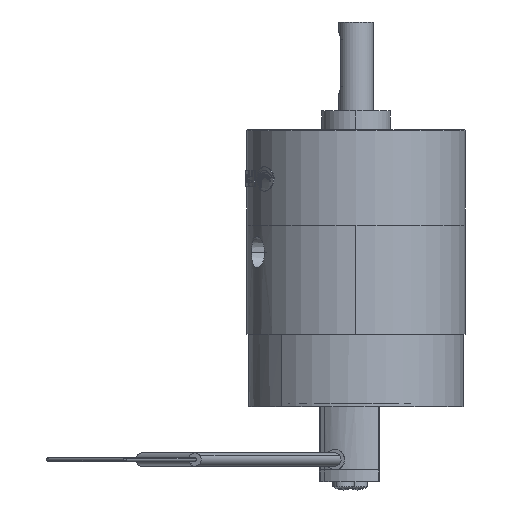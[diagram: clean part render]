
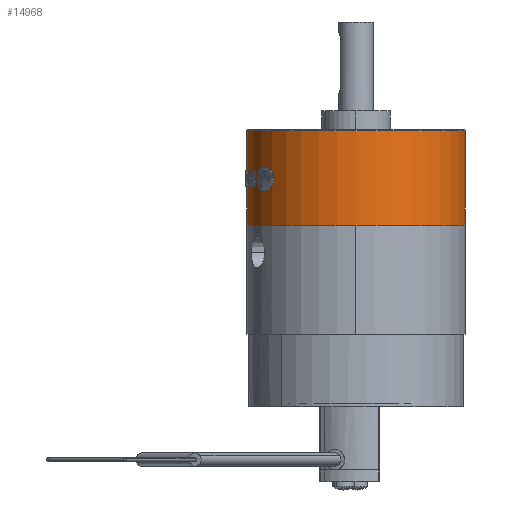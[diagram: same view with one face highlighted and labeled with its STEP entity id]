
A CAD part, left-side view. The second image highlights one B-rep face of the part: STEP entity #14968.
In plain terms, the highlighted cylindrical face has radius 32 mm (diameter 64 mm), a partial arc.
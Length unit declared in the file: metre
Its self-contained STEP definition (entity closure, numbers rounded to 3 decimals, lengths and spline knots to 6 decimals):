
#641 = AXIS2_PLACEMENT_3D ( 'NONE', #14360, #18692, #1943 ) ;
#737 = ORIENTED_EDGE ( 'NONE', *, *, #7960, .T. ) ;
#1194 = ORIENTED_EDGE ( 'NONE', *, *, #16166, .T. ) ;
#1354 = ORIENTED_EDGE ( 'NONE', *, *, #4740, .T. ) ;
#1943 = DIRECTION ( 'NONE',  ( 0., -1., 0. ) ) ;
#2461 = CARTESIAN_POINT ( 'NONE',  ( 0., 0.032, -0.0003 ) ) ;
#2712 = EDGE_CURVE ( 'NONE', #3213, #19456, #15177, .T. ) ;
#3177 = VERTEX_POINT ( 'NONE', #12465 ) ;
#3213 = VERTEX_POINT ( 'NONE', #15397 ) ;
#4740 = EDGE_CURVE ( 'NONE', #3177, #16006, #7688, .T. ) ;
#5065 = EDGE_LOOP ( 'NONE', ( #10957, #1354, #737, #16842, #1194 ) ) ;
#5886 = DIRECTION ( 'NONE',  ( 0., 0., -1. ) ) ;
#6675 = LINE ( 'NONE', #12292, #10347 ) ;
#7276 = AXIS2_PLACEMENT_3D ( 'NONE', #16809, #16845, #16869 ) ;
#7354 = VERTEX_POINT ( 'NONE', #2461 ) ;
#7614 = LINE ( 'NONE', #7795, #19127 ) ;
#7688 = CIRCLE ( 'NONE', #7276, 0.032 ) ;
#7795 = CARTESIAN_POINT ( 'NONE',  ( 0., 0.032, -0.028 ) ) ;
#7875 = DIRECTION ( 'NONE',  ( 0., 0., 1. ) ) ;
#7960 = EDGE_CURVE ( 'NONE', #16006, #3213, #6675, .T. ) ;
#9323 = CARTESIAN_POINT ( 'NONE',  ( -0.032, 0., -0.0003 ) ) ;
#9627 = CIRCLE ( 'NONE', #14015, 0.032 ) ;
#10347 = VECTOR ( 'NONE', #12236, 1. ) ;
#10957 = ORIENTED_EDGE ( 'NONE', *, *, #11095, .F. ) ;
#11095 = EDGE_CURVE ( 'NONE', #3177, #7354, #7614, .T. ) ;
#12236 = DIRECTION ( 'NONE',  ( 0., 0., 1. ) ) ;
#12292 = CARTESIAN_POINT ( 'NONE',  ( 0., -0.032, -0.028 ) ) ;
#12465 = CARTESIAN_POINT ( 'NONE',  ( 0., 0.032, -0.028 ) ) ;
#13154 = AXIS2_PLACEMENT_3D ( 'NONE', #14154, #14135, #14211 ) ;
#13465 = CARTESIAN_POINT ( 'NONE',  ( 0., -0.032, -0.028 ) ) ;
#14015 = AXIS2_PLACEMENT_3D ( 'NONE', #15182, #5886, #16630 ) ;
#14135 = DIRECTION ( 'NONE',  ( 0., 0., -1. ) ) ;
#14154 = CARTESIAN_POINT ( 'NONE',  ( 0., 0., -0.0003 ) ) ;
#14211 = DIRECTION ( 'NONE',  ( -1., 0., 0. ) ) ;
#14270 = CYLINDRICAL_SURFACE ( 'NONE', #641, 0.032 ) ;
#14360 = CARTESIAN_POINT ( 'NONE',  ( 0., 0., -0.028 ) ) ;
#14723 = FACE_OUTER_BOUND ( 'NONE', #5065, .T. ) ;
#14968 = ADVANCED_FACE ( 'NONE', ( #14723 ), #14270, .T. ) ;
#15177 = CIRCLE ( 'NONE', #13154, 0.032 ) ;
#15182 = CARTESIAN_POINT ( 'NONE',  ( 0., 0., -0.0003 ) ) ;
#15397 = CARTESIAN_POINT ( 'NONE',  ( 0., -0.032, -0.0003 ) ) ;
#16006 = VERTEX_POINT ( 'NONE', #13465 ) ;
#16166 = EDGE_CURVE ( 'NONE', #19456, #7354, #9627, .T. ) ;
#16630 = DIRECTION ( 'NONE',  ( -1., 0., 0. ) ) ;
#16809 = CARTESIAN_POINT ( 'NONE',  ( 0., 0., -0.028 ) ) ;
#16842 = ORIENTED_EDGE ( 'NONE', *, *, #2712, .T. ) ;
#16845 = DIRECTION ( 'NONE',  ( 0., 0., 1. ) ) ;
#16869 = DIRECTION ( 'NONE',  ( 0., -1., 0. ) ) ;
#18692 = DIRECTION ( 'NONE',  ( 0., 0., 1. ) ) ;
#19127 = VECTOR ( 'NONE', #7875, 1. ) ;
#19456 = VERTEX_POINT ( 'NONE', #9323 ) ;
